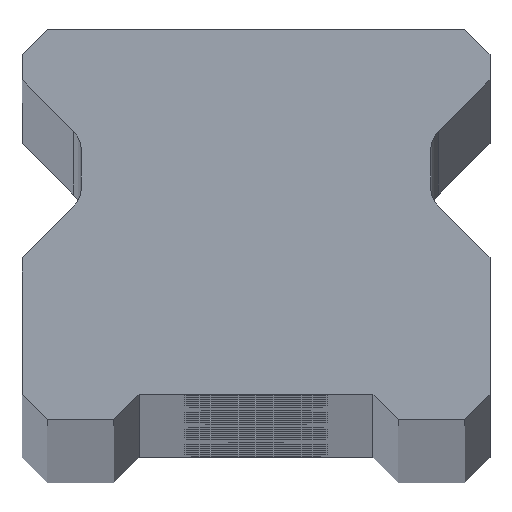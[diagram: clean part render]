
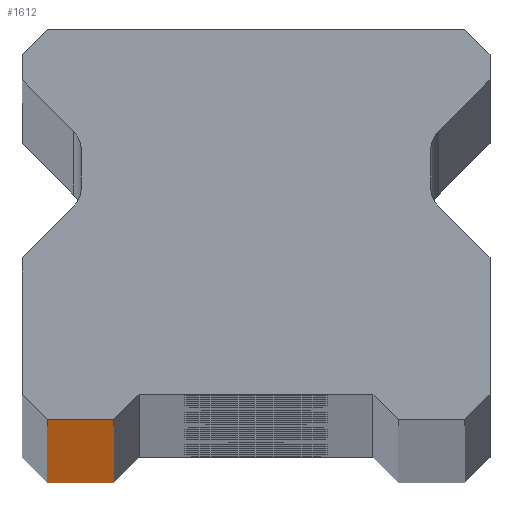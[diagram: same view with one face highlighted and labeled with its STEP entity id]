
A CAD part, top view. The second image highlights one B-rep face of the part: STEP entity #1612.
In plain terms, the highlighted planar face has unit normal (0, -1, 0).
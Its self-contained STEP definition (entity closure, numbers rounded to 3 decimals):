
#73 = DIRECTION ( 'NONE',  ( 0., 0., 1. ) ) ;
#292 = LINE ( 'NONE', #2919, #1243 ) ;
#482 = DIRECTION ( 'NONE',  ( 0., 1., 0. ) ) ;
#539 = VECTOR ( 'NONE', #4283, 1000. ) ;
#549 = DIRECTION ( 'NONE',  ( 1., 0., 0. ) ) ;
#669 = EDGE_LOOP ( 'NONE', ( #2528, #4042, #4597, #4758 ) ) ;
#883 = VERTEX_POINT ( 'NONE', #3445 ) ;
#903 = CARTESIAN_POINT ( 'NONE',  ( 11.5, 0., 890. ) ) ;
#1218 = EDGE_CURVE ( 'NONE', #5004, #5040, #1578, .T. ) ;
#1243 = VECTOR ( 'NONE', #4686, 1000. ) ;
#1442 = LINE ( 'NONE', #2598, #3771 ) ;
#1578 = LINE ( 'NONE', #3075, #3779 ) ;
#1612 = ADVANCED_FACE ( 'NONE', ( #4856 ), #4313, .F. ) ;
#1738 = CARTESIAN_POINT ( 'NONE',  ( -10.25, 0., -890. ) ) ;
#1927 = DIRECTION ( 'NONE',  ( -1., 0., 0. ) ) ;
#2528 = ORIENTED_EDGE ( 'NONE', *, *, #3086, .T. ) ;
#2598 = CARTESIAN_POINT ( 'NONE',  ( -7., 0., -890. ) ) ;
#2882 = CARTESIAN_POINT ( 'NONE',  ( -7., 0., 890. ) ) ;
#2919 = CARTESIAN_POINT ( 'NONE',  ( 11.5, 0., -890. ) ) ;
#3075 = CARTESIAN_POINT ( 'NONE',  ( 11.5, 0., 890. ) ) ;
#3086 = EDGE_CURVE ( 'NONE', #5189, #883, #292, .T. ) ;
#3194 = EDGE_CURVE ( 'NONE', #883, #5040, #1442, .T. ) ;
#3445 = CARTESIAN_POINT ( 'NONE',  ( -7., 0., -890. ) ) ;
#3771 = VECTOR ( 'NONE', #73, 1000. ) ;
#3779 = VECTOR ( 'NONE', #549, 1000. ) ;
#3821 = AXIS2_PLACEMENT_3D ( 'NONE', #903, #482, #1927 ) ;
#4017 = LINE ( 'NONE', #4791, #539 ) ;
#4042 = ORIENTED_EDGE ( 'NONE', *, *, #3194, .T. ) ;
#4210 = CARTESIAN_POINT ( 'NONE',  ( -10.25, 0., 890. ) ) ;
#4283 = DIRECTION ( 'NONE',  ( 0., 0., -1. ) ) ;
#4313 = PLANE ( 'NONE',  #3821 ) ;
#4597 = ORIENTED_EDGE ( 'NONE', *, *, #1218, .F. ) ;
#4686 = DIRECTION ( 'NONE',  ( 1., 0., 0. ) ) ;
#4699 = EDGE_CURVE ( 'NONE', #5004, #5189, #4017, .T. ) ;
#4758 = ORIENTED_EDGE ( 'NONE', *, *, #4699, .T. ) ;
#4791 = CARTESIAN_POINT ( 'NONE',  ( -10.25, 0., 890. ) ) ;
#4856 = FACE_OUTER_BOUND ( 'NONE', #669, .T. ) ;
#5004 = VERTEX_POINT ( 'NONE', #4210 ) ;
#5040 = VERTEX_POINT ( 'NONE', #2882 ) ;
#5189 = VERTEX_POINT ( 'NONE', #1738 ) ;
